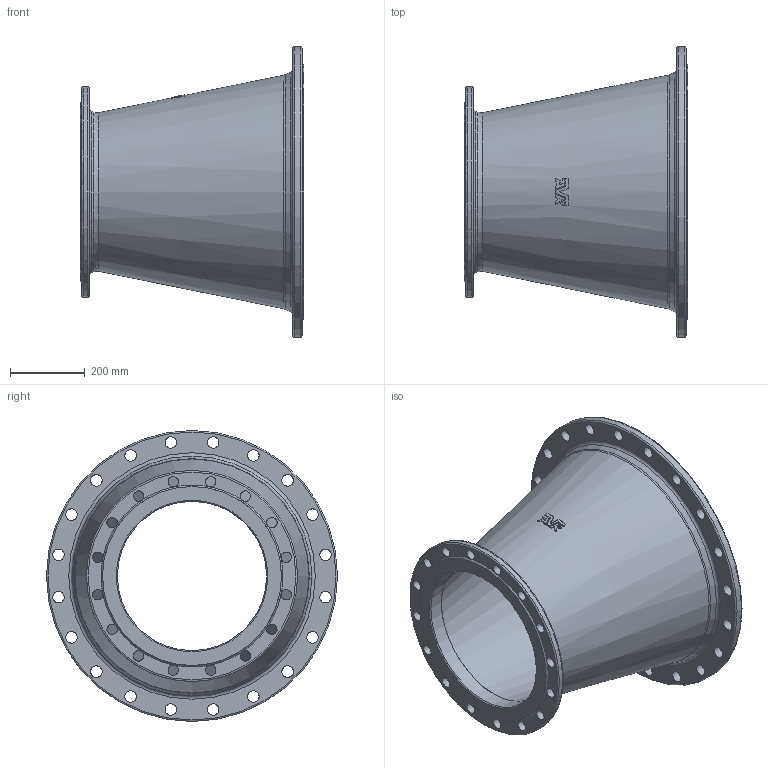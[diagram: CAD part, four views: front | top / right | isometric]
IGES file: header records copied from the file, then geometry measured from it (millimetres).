
Start section: SolidWorks IGES file using analytic representation for surfaces
Global section: file name: \\avksan2\techshare\PBM outline export from Enovia\O_712_2210_DN600_DN400_0X_REV01.igs; native system: SolidWorks 2022; preprocessor: SolidWorks 2022; author: pbm; date: 240808.114240; units: millimetre
Bounding box: 600 x 780 x 780 mm (x, y, z)
Surface area: 2561896.2 mm2 (no closed solid volume)
Topology: 0 solids, 0 shells, 105 faces, 584 edges, 526 vertices
Faces by surface type: revolution 64, bspline 41
